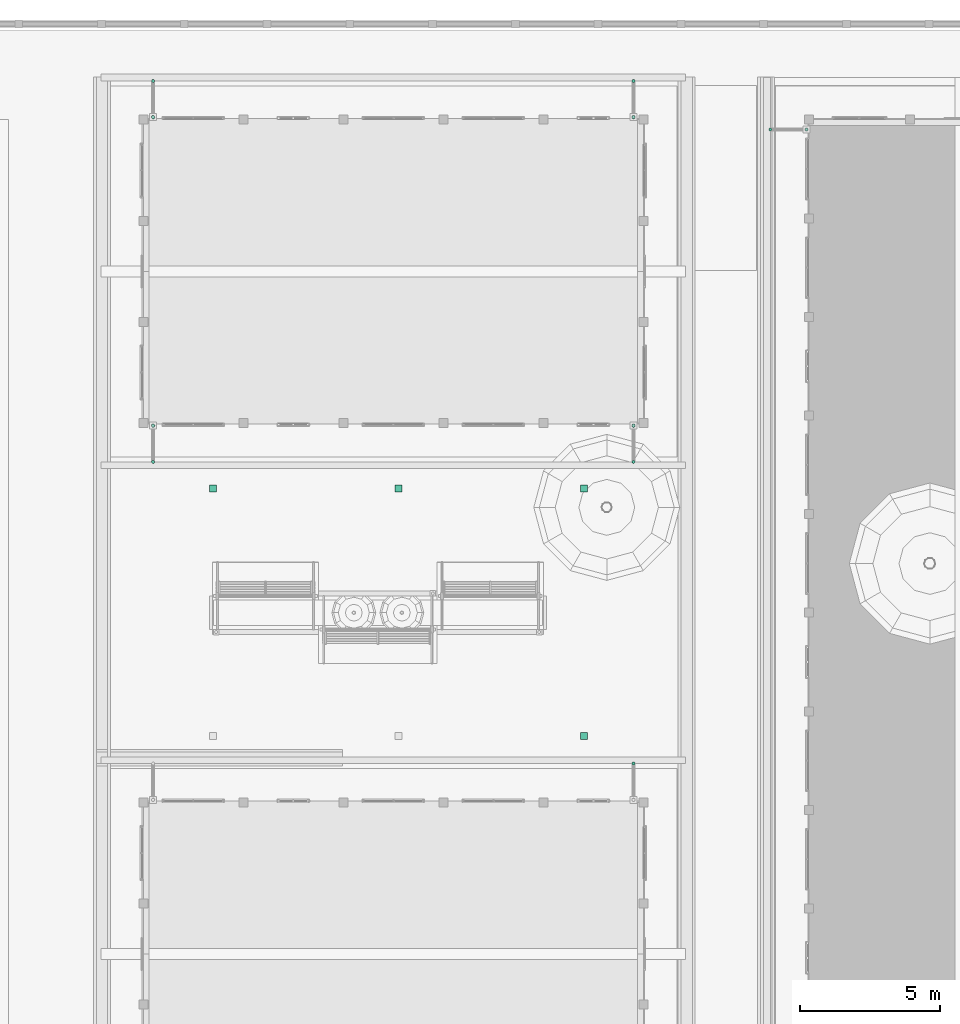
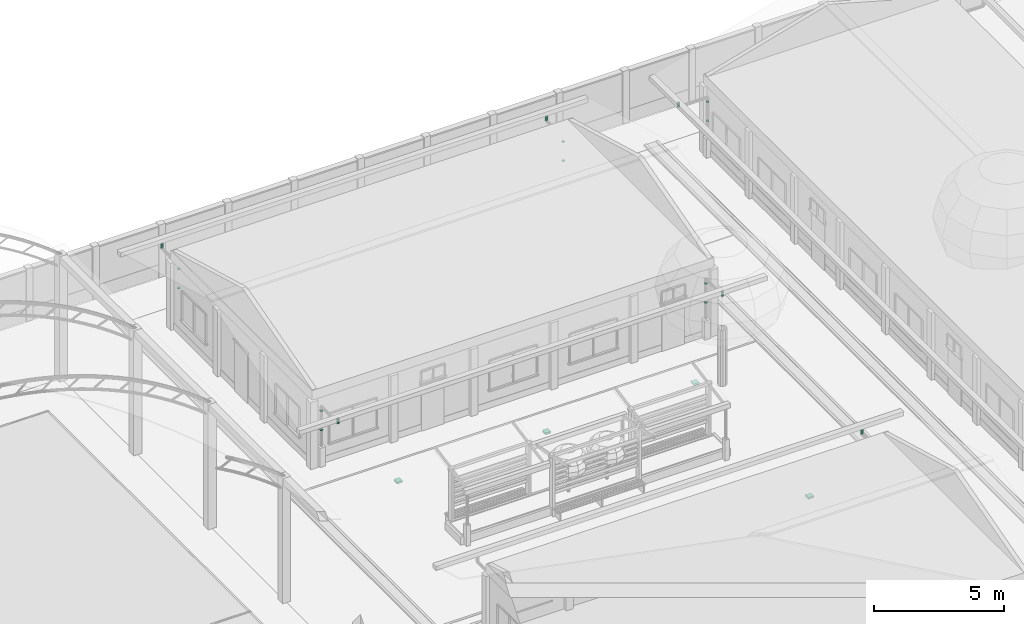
# One storey, part 128 of 177: 16 pipe segments, 4 waste terminals.
"""IFC4 building model written with IfcOpenShell, lengths in metres."""

from ifc_helpers import new_model, si_unit, origin, origin_with_axes, place, context, subcontext, project, spatial, triangles, element, save


model = new_model("IFC4")

# Units and contexts
model_context = context("Model", 3, precision=1e-05, world=origin_with_axes())
body_context = subcontext(model_context, "Body", "Model", "MODEL_VIEW")
ifc_project = project(units=[si_unit("LENGTHUNIT", "METRE"), si_unit("AREAUNIT", "SQUARE_METRE"), si_unit("VOLUMEUNIT", "CUBIC_METRE"), si_unit("PLANEANGLEUNIT", "RADIAN")], contexts=[model_context])

# Site, building, storey
site_placement = place(None, origin_with_axes())
site = spatial("IfcSite", under=ifc_project, at=site_placement, Name="Predio Los Mangos - Morales, San Martín", CompositionType="ELEMENT")
building_placement = place(site_placement, origin())
building = spatial("IfcBuilding", under=site, at=building_placement, Name="Hogar de Refugio Temporal", CompositionType="ELEMENT")
storey_placement = place(building_placement, origin())
storey = spatial("IfcBuildingStorey", under=building, at=storey_placement, Name="NIVEL 1 (NPT +0.00)", CompositionType="ELEMENT", Elevation=0.0)

# Pipe segments
pipe_segment_1_placement = place(storey_placement, origin())
element("IfcPipeSegment", 1, at=pipe_segment_1_placement, inside=storey, Name="montante_boquilla", ObjectType="Montante PVC 4\"", PredefinedType="RIGIDSEGMENT", context=body_context, shape_type="Tessellation", body=[
    triangles([(49.45, 104.935, 3.13), (49.45, 104.935, 2.91), (49.4225, 104.9276, 3.13), (49.4225, 104.9276, 2.91), (49.4024, 104.9075, 3.13), (49.4024, 104.9075, 2.91), (49.395, 104.88, 3.13), (49.395, 104.88, 2.91), (49.4024, 104.8525, 3.13), (49.4024, 104.8525, 2.91), (49.4225, 104.8324, 3.13), (49.4225, 104.8324, 2.91), (49.45, 104.825, 3.13), (49.45, 104.825, 2.91), (49.4775, 104.8324, 3.13), (49.4775, 104.8324, 2.91), (49.4976, 104.8525, 3.13), (49.4976, 104.8525, 2.91), (49.505, 104.88, 3.13), (49.505, 104.88, 2.91), (49.4976, 104.9075, 3.13), (49.4976, 104.9075, 2.91), (49.4775, 104.9276, 3.13), (49.4775, 104.9276, 2.91)], [[1, 2, 4], [1, 4, 3], [3, 4, 6], [3, 6, 5], [5, 6, 8], [5, 8, 7], [7, 8, 10], [7, 10, 9], [9, 10, 12], [9, 12, 11], [11, 12, 14], [11, 14, 13], [13, 14, 16], [13, 16, 15], [15, 16, 18], [15, 18, 17], [17, 18, 20], [17, 20, 19], [19, 20, 22], [19, 22, 21], [6, 4, 2], [2, 24, 22], [22, 20, 18], [18, 16, 14], [14, 12, 10], [10, 8, 6], [6, 2, 22], [22, 18, 14], [14, 10, 6], [22, 14, 6], [21, 22, 24], [21, 24, 23], [23, 24, 2], [23, 2, 1], [23, 1, 3], [3, 5, 7], [7, 9, 11], [11, 13, 15], [15, 17, 19], [19, 21, 23], [23, 3, 7], [7, 11, 15], [15, 19, 23], [7, 15, 23]]),
])
pipe_segment_2_placement = place(storey_placement, origin())
element("IfcPipeSegment", 2, at=pipe_segment_2_placement, inside=storey, Name="montante_boquilla", ObjectType="Montante PVC 4\"", PredefinedType="RIGIDSEGMENT", context=body_context, shape_type="Tessellation", body=[
    triangles([(32.35, 115.675, 3.13), (32.35, 115.675, 2.91), (32.3225, 115.6676, 3.13), (32.3225, 115.6676, 2.91), (32.3024, 115.6475, 3.13), (32.3024, 115.6475, 2.91), (32.295, 115.62, 3.13), (32.295, 115.62, 2.91), (32.3024, 115.5925, 3.13), (32.3024, 115.5925, 2.91), (32.3225, 115.5724, 3.13), (32.3225, 115.5724, 2.91), (32.35, 115.565, 3.13), (32.35, 115.565, 2.91), (32.3775, 115.5724, 3.13), (32.3775, 115.5724, 2.91), (32.3976, 115.5925, 3.13), (32.3976, 115.5925, 2.91), (32.405, 115.62, 3.13), (32.405, 115.62, 2.91), (32.3976, 115.6475, 3.13), (32.3976, 115.6475, 2.91), (32.3775, 115.6676, 3.13), (32.3775, 115.6676, 2.91)], [[1, 2, 4], [1, 4, 3], [3, 4, 6], [3, 6, 5], [5, 6, 8], [5, 8, 7], [7, 8, 10], [7, 10, 9], [9, 10, 12], [9, 12, 11], [11, 12, 14], [11, 14, 13], [13, 14, 16], [13, 16, 15], [15, 16, 18], [15, 18, 17], [17, 18, 20], [17, 20, 19], [19, 20, 22], [19, 22, 21], [6, 4, 2], [2, 24, 22], [22, 20, 18], [18, 16, 14], [14, 12, 10], [10, 8, 6], [6, 2, 22], [22, 18, 14], [14, 10, 6], [22, 14, 6], [21, 22, 24], [21, 24, 23], [23, 24, 2], [23, 2, 1], [23, 1, 3], [3, 5, 7], [7, 9, 11], [11, 13, 15], [15, 17, 19], [19, 21, 23], [23, 3, 7], [7, 11, 15], [15, 19, 23], [7, 15, 23]]),
])
pipe_segment_3_placement = place(storey_placement, origin())
element("IfcPipeSegment", 3, at=pipe_segment_3_placement, inside=storey, Name="montante_abrazadera", ObjectType="Montante PVC 4\"", PredefinedType="RIGIDSEGMENT", context=body_context, shape_type="Tessellation", body=[
    triangles([(32.35, 116.848, 1.8), (32.35, 116.848, 1.84), (32.319, 116.8563, 1.8), (32.319, 116.8563, 1.84), (32.2963, 116.879, 1.8), (32.2963, 116.879, 1.84), (32.288, 116.91, 1.8), (32.288, 116.91, 1.84), (32.2963, 116.941, 1.8), (32.2963, 116.941, 1.84), (32.319, 116.9637, 1.8), (32.319, 116.9637, 1.84), (32.35, 116.972, 1.8), (32.35, 116.972, 1.84), (32.381, 116.9637, 1.8), (32.381, 116.9637, 1.84), (32.4037, 116.941, 1.8), (32.4037, 116.941, 1.84), (32.412, 116.91, 1.8), (32.412, 116.91, 1.84), (32.4037, 116.879, 1.8), (32.4037, 116.879, 1.84), (32.381, 116.8563, 1.8), (32.381, 116.8563, 1.84)], [[1, 2, 4], [1, 4, 3], [3, 4, 6], [3, 6, 5], [5, 6, 8], [5, 8, 7], [7, 8, 10], [7, 10, 9], [9, 10, 12], [9, 12, 11], [11, 12, 14], [11, 14, 13], [13, 14, 16], [13, 16, 15], [15, 16, 18], [15, 18, 17], [17, 18, 20], [17, 20, 19], [19, 20, 22], [19, 22, 21], [6, 4, 2], [2, 24, 22], [22, 20, 18], [18, 16, 14], [14, 12, 10], [10, 8, 6], [6, 2, 22], [22, 18, 14], [14, 10, 6], [22, 14, 6], [21, 22, 24], [21, 24, 23], [23, 24, 2], [23, 2, 1], [23, 1, 3], [3, 5, 7], [7, 9, 11], [11, 13, 15], [15, 17, 19], [19, 21, 23], [23, 3, 7], [7, 11, 15], [15, 19, 23], [7, 15, 23]]),
])
pipe_segment_4_placement = place(storey_placement, origin())
element("IfcPipeSegment", 4, at=pipe_segment_4_placement, inside=storey, Name="montante_abrazadera", ObjectType="Montante PVC 4\"", PredefinedType="RIGIDSEGMENT", context=body_context, shape_type="Tessellation", body=[
    triangles([(32.35, 116.848, 2.7), (32.35, 116.848, 2.74), (32.319, 116.8563, 2.7), (32.319, 116.8563, 2.74), (32.2963, 116.879, 2.7), (32.2963, 116.879, 2.74), (32.288, 116.91, 2.7), (32.288, 116.91, 2.74), (32.2963, 116.941, 2.7), (32.2963, 116.941, 2.74), (32.319, 116.9637, 2.7), (32.319, 116.9637, 2.74), (32.35, 116.972, 2.7), (32.35, 116.972, 2.74), (32.381, 116.9637, 2.7), (32.381, 116.9637, 2.74), (32.4037, 116.941, 2.7), (32.4037, 116.941, 2.74), (32.412, 116.91, 2.7), (32.412, 116.91, 2.74), (32.4037, 116.879, 2.7), (32.4037, 116.879, 2.74), (32.381, 116.8563, 2.7), (32.381, 116.8563, 2.74)], [[1, 2, 4], [1, 4, 3], [3, 4, 6], [3, 6, 5], [5, 6, 8], [5, 8, 7], [7, 8, 10], [7, 10, 9], [9, 10, 12], [9, 12, 11], [11, 12, 14], [11, 14, 13], [13, 14, 16], [13, 16, 15], [15, 16, 18], [15, 18, 17], [17, 18, 20], [17, 20, 19], [19, 20, 22], [19, 22, 21], [6, 4, 2], [2, 24, 22], [22, 20, 18], [18, 16, 14], [14, 12, 10], [10, 8, 6], [6, 2, 22], [22, 18, 14], [14, 10, 6], [22, 14, 6], [21, 22, 24], [21, 24, 23], [23, 24, 2], [23, 2, 1], [23, 1, 3], [3, 5, 7], [7, 9, 11], [11, 13, 15], [15, 17, 19], [19, 21, 23], [23, 3, 7], [7, 11, 15], [15, 19, 23], [7, 15, 23]]),
])
pipe_segment_5_placement = place(storey_placement, origin())
element("IfcPipeSegment", 5, at=pipe_segment_5_placement, inside=storey, Name="montante_boquilla", ObjectType="Montante PVC 4\"", PredefinedType="RIGIDSEGMENT", context=body_context, shape_type="Tessellation", body=[
    triangles([(49.45, 115.675, 3.13), (49.45, 115.675, 2.91), (49.4225, 115.6676, 3.13), (49.4225, 115.6676, 2.91), (49.4024, 115.6475, 3.13), (49.4024, 115.6475, 2.91), (49.395, 115.62, 3.13), (49.395, 115.62, 2.91), (49.4024, 115.5925, 3.13), (49.4024, 115.5925, 2.91), (49.4225, 115.5724, 3.13), (49.4225, 115.5724, 2.91), (49.45, 115.565, 3.13), (49.45, 115.565, 2.91), (49.4775, 115.5724, 3.13), (49.4775, 115.5724, 2.91), (49.4976, 115.5925, 3.13), (49.4976, 115.5925, 2.91), (49.505, 115.62, 3.13), (49.505, 115.62, 2.91), (49.4976, 115.6475, 3.13), (49.4976, 115.6475, 2.91), (49.4775, 115.6676, 3.13), (49.4775, 115.6676, 2.91)], [[1, 2, 4], [1, 4, 3], [3, 4, 6], [3, 6, 5], [5, 6, 8], [5, 8, 7], [7, 8, 10], [7, 10, 9], [9, 10, 12], [9, 12, 11], [11, 12, 14], [11, 14, 13], [13, 14, 16], [13, 16, 15], [15, 16, 18], [15, 18, 17], [17, 18, 20], [17, 20, 19], [19, 20, 22], [19, 22, 21], [6, 4, 2], [2, 24, 22], [22, 20, 18], [18, 16, 14], [14, 12, 10], [10, 8, 6], [6, 2, 22], [22, 18, 14], [14, 10, 6], [22, 14, 6], [21, 22, 24], [21, 24, 23], [23, 24, 2], [23, 2, 1], [23, 1, 3], [3, 5, 7], [7, 9, 11], [11, 13, 15], [15, 17, 19], [19, 21, 23], [23, 3, 7], [7, 11, 15], [15, 19, 23], [7, 15, 23]]),
])
pipe_segment_6_placement = place(storey_placement, origin())
element("IfcPipeSegment", 6, at=pipe_segment_6_placement, inside=storey, Name="montante_abrazadera", ObjectType="Montante PVC 4\"", PredefinedType="RIGIDSEGMENT", context=body_context, shape_type="Tessellation", body=[
    triangles([(49.45, 116.848, 1.8), (49.45, 116.848, 1.84), (49.419, 116.8563, 1.8), (49.419, 116.8563, 1.84), (49.3963, 116.879, 1.8), (49.3963, 116.879, 1.84), (49.388, 116.91, 1.8), (49.388, 116.91, 1.84), (49.3963, 116.941, 1.8), (49.3963, 116.941, 1.84), (49.419, 116.9637, 1.8), (49.419, 116.9637, 1.84), (49.45, 116.972, 1.8), (49.45, 116.972, 1.84), (49.481, 116.9637, 1.8), (49.481, 116.9637, 1.84), (49.5037, 116.941, 1.8), (49.5037, 116.941, 1.84), (49.512, 116.91, 1.8), (49.512, 116.91, 1.84), (49.5037, 116.879, 1.8), (49.5037, 116.879, 1.84), (49.481, 116.8563, 1.8), (49.481, 116.8563, 1.84)], [[1, 2, 4], [1, 4, 3], [3, 4, 6], [3, 6, 5], [5, 6, 8], [5, 8, 7], [7, 8, 10], [7, 10, 9], [9, 10, 12], [9, 12, 11], [11, 12, 14], [11, 14, 13], [13, 14, 16], [13, 16, 15], [15, 16, 18], [15, 18, 17], [17, 18, 20], [17, 20, 19], [19, 20, 22], [19, 22, 21], [6, 4, 2], [2, 24, 22], [22, 20, 18], [18, 16, 14], [14, 12, 10], [10, 8, 6], [6, 2, 22], [22, 18, 14], [14, 10, 6], [22, 14, 6], [21, 22, 24], [21, 24, 23], [23, 24, 2], [23, 2, 1], [23, 1, 3], [3, 5, 7], [7, 9, 11], [11, 13, 15], [15, 17, 19], [19, 21, 23], [23, 3, 7], [7, 11, 15], [15, 19, 23], [7, 15, 23]]),
])
pipe_segment_7_placement = place(storey_placement, origin())
element("IfcPipeSegment", 7, at=pipe_segment_7_placement, inside=storey, Name="montante_abrazadera", ObjectType="Montante PVC 4\"", PredefinedType="RIGIDSEGMENT", context=body_context, shape_type="Tessellation", body=[
    triangles([(49.45, 116.848, 2.7), (49.45, 116.848, 2.74), (49.419, 116.8563, 2.7), (49.419, 116.8563, 2.74), (49.3963, 116.879, 2.7), (49.3963, 116.879, 2.74), (49.388, 116.91, 2.7), (49.388, 116.91, 2.74), (49.3963, 116.941, 2.7), (49.3963, 116.941, 2.74), (49.419, 116.9637, 2.7), (49.419, 116.9637, 2.74), (49.45, 116.972, 2.7), (49.45, 116.972, 2.74), (49.481, 116.9637, 2.7), (49.481, 116.9637, 2.74), (49.5037, 116.941, 2.7), (49.5037, 116.941, 2.74), (49.512, 116.91, 2.7), (49.512, 116.91, 2.74), (49.5037, 116.879, 2.7), (49.5037, 116.879, 2.74), (49.481, 116.8563, 2.7), (49.481, 116.8563, 2.74)], [[1, 2, 4], [1, 4, 3], [3, 4, 6], [3, 6, 5], [5, 6, 8], [5, 8, 7], [7, 8, 10], [7, 10, 9], [9, 10, 12], [9, 12, 11], [11, 12, 14], [11, 14, 13], [13, 14, 16], [13, 16, 15], [15, 16, 18], [15, 18, 17], [17, 18, 20], [17, 20, 19], [19, 20, 22], [19, 22, 21], [6, 4, 2], [2, 24, 22], [22, 20, 18], [18, 16, 14], [14, 12, 10], [10, 8, 6], [6, 2, 22], [22, 18, 14], [14, 10, 6], [22, 14, 6], [21, 22, 24], [21, 24, 23], [23, 24, 2], [23, 2, 1], [23, 1, 3], [3, 5, 7], [7, 9, 11], [11, 13, 15], [15, 17, 19], [19, 21, 23], [23, 3, 7], [7, 11, 15], [15, 19, 23], [7, 15, 23]]),
])
pipe_segment_8_placement = place(storey_placement, origin())
element("IfcPipeSegment", 8, at=pipe_segment_8_placement, inside=storey, Name="montante_boquilla", ObjectType="Montante PVC 4\"", PredefinedType="RIGIDSEGMENT", context=body_context, shape_type="Tessellation", body=[
    triangles([(32.35, 129.235, 3.13), (32.35, 129.235, 2.91), (32.3225, 129.2276, 3.13), (32.3225, 129.2276, 2.91), (32.3024, 129.2075, 3.13), (32.3024, 129.2075, 2.91), (32.295, 129.18, 3.13), (32.295, 129.18, 2.91), (32.3024, 129.1525, 3.13), (32.3024, 129.1525, 2.91), (32.3225, 129.1324, 3.13), (32.3225, 129.1324, 2.91), (32.35, 129.125, 3.13), (32.35, 129.125, 2.91), (32.3775, 129.1324, 3.13), (32.3775, 129.1324, 2.91), (32.3976, 129.1525, 3.13), (32.3976, 129.1525, 2.91), (32.405, 129.18, 3.13), (32.405, 129.18, 2.91), (32.3976, 129.2075, 3.13), (32.3976, 129.2075, 2.91), (32.3775, 129.2276, 3.13), (32.3775, 129.2276, 2.91)], [[1, 2, 4], [1, 4, 3], [3, 4, 6], [3, 6, 5], [5, 6, 8], [5, 8, 7], [7, 8, 10], [7, 10, 9], [9, 10, 12], [9, 12, 11], [11, 12, 14], [11, 14, 13], [13, 14, 16], [13, 16, 15], [15, 16, 18], [15, 18, 17], [17, 18, 20], [17, 20, 19], [19, 20, 22], [19, 22, 21], [6, 4, 2], [2, 24, 22], [22, 20, 18], [18, 16, 14], [14, 12, 10], [10, 8, 6], [6, 2, 22], [22, 18, 14], [14, 10, 6], [22, 14, 6], [21, 22, 24], [21, 24, 23], [23, 24, 2], [23, 2, 1], [23, 1, 3], [3, 5, 7], [7, 9, 11], [11, 13, 15], [15, 17, 19], [19, 21, 23], [23, 3, 7], [7, 11, 15], [15, 19, 23], [7, 15, 23]]),
])
pipe_segment_9_placement = place(storey_placement, origin())
element("IfcPipeSegment", 9, at=pipe_segment_9_placement, inside=storey, Name="montante_abrazadera", ObjectType="Montante PVC 4\"", PredefinedType="RIGIDSEGMENT", context=body_context, shape_type="Tessellation", body=[
    triangles([(32.35, 127.828, 1.8), (32.35, 127.828, 1.84), (32.319, 127.8363, 1.8), (32.319, 127.8363, 1.84), (32.2963, 127.859, 1.8), (32.2963, 127.859, 1.84), (32.288, 127.89, 1.8), (32.288, 127.89, 1.84), (32.2963, 127.921, 1.8), (32.2963, 127.921, 1.84), (32.319, 127.9437, 1.8), (32.319, 127.9437, 1.84), (32.35, 127.952, 1.8), (32.35, 127.952, 1.84), (32.381, 127.9437, 1.8), (32.381, 127.9437, 1.84), (32.4037, 127.921, 1.8), (32.4037, 127.921, 1.84), (32.412, 127.89, 1.8), (32.412, 127.89, 1.84), (32.4037, 127.859, 1.8), (32.4037, 127.859, 1.84), (32.381, 127.8363, 1.8), (32.381, 127.8363, 1.84)], [[1, 2, 4], [1, 4, 3], [3, 4, 6], [3, 6, 5], [5, 6, 8], [5, 8, 7], [7, 8, 10], [7, 10, 9], [9, 10, 12], [9, 12, 11], [11, 12, 14], [11, 14, 13], [13, 14, 16], [13, 16, 15], [15, 16, 18], [15, 18, 17], [17, 18, 20], [17, 20, 19], [19, 20, 22], [19, 22, 21], [6, 4, 2], [2, 24, 22], [22, 20, 18], [18, 16, 14], [14, 12, 10], [10, 8, 6], [6, 2, 22], [22, 18, 14], [14, 10, 6], [22, 14, 6], [21, 22, 24], [21, 24, 23], [23, 24, 2], [23, 2, 1], [23, 1, 3], [3, 5, 7], [7, 9, 11], [11, 13, 15], [15, 17, 19], [19, 21, 23], [23, 3, 7], [7, 11, 15], [15, 19, 23], [7, 15, 23]]),
])
pipe_segment_10_placement = place(storey_placement, origin())
element("IfcPipeSegment", 10, at=pipe_segment_10_placement, inside=storey, Name="montante_abrazadera", ObjectType="Montante PVC 4\"", PredefinedType="RIGIDSEGMENT", context=body_context, shape_type="Tessellation", body=[
    triangles([(32.35, 127.828, 2.7), (32.35, 127.828, 2.74), (32.319, 127.8363, 2.7), (32.319, 127.8363, 2.74), (32.2963, 127.859, 2.7), (32.2963, 127.859, 2.74), (32.288, 127.89, 2.7), (32.288, 127.89, 2.74), (32.2963, 127.921, 2.7), (32.2963, 127.921, 2.74), (32.319, 127.9437, 2.7), (32.319, 127.9437, 2.74), (32.35, 127.952, 2.7), (32.35, 127.952, 2.74), (32.381, 127.9437, 2.7), (32.381, 127.9437, 2.74), (32.4037, 127.921, 2.7), (32.4037, 127.921, 2.74), (32.412, 127.89, 2.7), (32.412, 127.89, 2.74), (32.4037, 127.859, 2.7), (32.4037, 127.859, 2.74), (32.381, 127.8363, 2.7), (32.381, 127.8363, 2.74)], [[1, 2, 4], [1, 4, 3], [3, 4, 6], [3, 6, 5], [5, 6, 8], [5, 8, 7], [7, 8, 10], [7, 10, 9], [9, 10, 12], [9, 12, 11], [11, 12, 14], [11, 14, 13], [13, 14, 16], [13, 16, 15], [15, 16, 18], [15, 18, 17], [17, 18, 20], [17, 20, 19], [19, 20, 22], [19, 22, 21], [6, 4, 2], [2, 24, 22], [22, 20, 18], [18, 16, 14], [14, 12, 10], [10, 8, 6], [6, 2, 22], [22, 18, 14], [14, 10, 6], [22, 14, 6], [21, 22, 24], [21, 24, 23], [23, 24, 2], [23, 2, 1], [23, 1, 3], [3, 5, 7], [7, 9, 11], [11, 13, 15], [15, 17, 19], [19, 21, 23], [23, 3, 7], [7, 11, 15], [15, 19, 23], [7, 15, 23]]),
])
pipe_segment_11_placement = place(storey_placement, origin())
element("IfcPipeSegment", 11, at=pipe_segment_11_placement, inside=storey, Name="montante_boquilla", ObjectType="Montante PVC 4\"", PredefinedType="RIGIDSEGMENT", context=body_context, shape_type="Tessellation", body=[
    triangles([(49.45, 129.235, 3.13), (49.45, 129.235, 2.91), (49.4225, 129.2276, 3.13), (49.4225, 129.2276, 2.91), (49.4024, 129.2075, 3.13), (49.4024, 129.2075, 2.91), (49.395, 129.18, 3.13), (49.395, 129.18, 2.91), (49.4024, 129.1525, 3.13), (49.4024, 129.1525, 2.91), (49.4225, 129.1324, 3.13), (49.4225, 129.1324, 2.91), (49.45, 129.125, 3.13), (49.45, 129.125, 2.91), (49.4775, 129.1324, 3.13), (49.4775, 129.1324, 2.91), (49.4976, 129.1525, 3.13), (49.4976, 129.1525, 2.91), (49.505, 129.18, 3.13), (49.505, 129.18, 2.91), (49.4976, 129.2075, 3.13), (49.4976, 129.2075, 2.91), (49.4775, 129.2276, 3.13), (49.4775, 129.2276, 2.91)], [[1, 2, 4], [1, 4, 3], [3, 4, 6], [3, 6, 5], [5, 6, 8], [5, 8, 7], [7, 8, 10], [7, 10, 9], [9, 10, 12], [9, 12, 11], [11, 12, 14], [11, 14, 13], [13, 14, 16], [13, 16, 15], [15, 16, 18], [15, 18, 17], [17, 18, 20], [17, 20, 19], [19, 20, 22], [19, 22, 21], [6, 4, 2], [2, 24, 22], [22, 20, 18], [18, 16, 14], [14, 12, 10], [10, 8, 6], [6, 2, 22], [22, 18, 14], [14, 10, 6], [22, 14, 6], [21, 22, 24], [21, 24, 23], [23, 24, 2], [23, 2, 1], [23, 1, 3], [3, 5, 7], [7, 9, 11], [11, 13, 15], [15, 17, 19], [19, 21, 23], [23, 3, 7], [7, 11, 15], [15, 19, 23], [7, 15, 23]]),
])
pipe_segment_12_placement = place(storey_placement, origin())
element("IfcPipeSegment", 12, at=pipe_segment_12_placement, inside=storey, Name="montante_abrazadera", ObjectType="Montante PVC 4\"", PredefinedType="RIGIDSEGMENT", context=body_context, shape_type="Tessellation", body=[
    triangles([(49.45, 127.828, 1.8), (49.45, 127.828, 1.84), (49.419, 127.8363, 1.8), (49.419, 127.8363, 1.84), (49.3963, 127.859, 1.8), (49.3963, 127.859, 1.84), (49.388, 127.89, 1.8), (49.388, 127.89, 1.84), (49.3963, 127.921, 1.8), (49.3963, 127.921, 1.84), (49.419, 127.9437, 1.8), (49.419, 127.9437, 1.84), (49.45, 127.952, 1.8), (49.45, 127.952, 1.84), (49.481, 127.9437, 1.8), (49.481, 127.9437, 1.84), (49.5037, 127.921, 1.8), (49.5037, 127.921, 1.84), (49.512, 127.89, 1.8), (49.512, 127.89, 1.84), (49.5037, 127.859, 1.8), (49.5037, 127.859, 1.84), (49.481, 127.8363, 1.8), (49.481, 127.8363, 1.84)], [[1, 2, 4], [1, 4, 3], [3, 4, 6], [3, 6, 5], [5, 6, 8], [5, 8, 7], [7, 8, 10], [7, 10, 9], [9, 10, 12], [9, 12, 11], [11, 12, 14], [11, 14, 13], [13, 14, 16], [13, 16, 15], [15, 16, 18], [15, 18, 17], [17, 18, 20], [17, 20, 19], [19, 20, 22], [19, 22, 21], [6, 4, 2], [2, 24, 22], [22, 20, 18], [18, 16, 14], [14, 12, 10], [10, 8, 6], [6, 2, 22], [22, 18, 14], [14, 10, 6], [22, 14, 6], [21, 22, 24], [21, 24, 23], [23, 24, 2], [23, 2, 1], [23, 1, 3], [3, 5, 7], [7, 9, 11], [11, 13, 15], [15, 17, 19], [19, 21, 23], [23, 3, 7], [7, 11, 15], [15, 19, 23], [7, 15, 23]]),
])
pipe_segment_13_placement = place(storey_placement, origin())
element("IfcPipeSegment", 13, at=pipe_segment_13_placement, inside=storey, Name="montante_abrazadera", ObjectType="Montante PVC 4\"", PredefinedType="RIGIDSEGMENT", context=body_context, shape_type="Tessellation", body=[
    triangles([(49.45, 127.828, 2.7), (49.45, 127.828, 2.74), (49.419, 127.8363, 2.7), (49.419, 127.8363, 2.74), (49.3963, 127.859, 2.7), (49.3963, 127.859, 2.74), (49.388, 127.89, 2.7), (49.388, 127.89, 2.74), (49.3963, 127.921, 2.7), (49.3963, 127.921, 2.74), (49.419, 127.9437, 2.7), (49.419, 127.9437, 2.74), (49.45, 127.952, 2.7), (49.45, 127.952, 2.74), (49.481, 127.9437, 2.7), (49.481, 127.9437, 2.74), (49.5037, 127.921, 2.7), (49.5037, 127.921, 2.74), (49.512, 127.89, 2.7), (49.512, 127.89, 2.74), (49.5037, 127.859, 2.7), (49.5037, 127.859, 2.74), (49.481, 127.8363, 2.7), (49.481, 127.8363, 2.74)], [[1, 2, 4], [1, 4, 3], [3, 4, 6], [3, 6, 5], [5, 6, 8], [5, 8, 7], [7, 8, 10], [7, 10, 9], [9, 10, 12], [9, 12, 11], [11, 12, 14], [11, 14, 13], [13, 14, 16], [13, 16, 15], [15, 16, 18], [15, 18, 17], [17, 18, 20], [17, 20, 19], [19, 20, 22], [19, 22, 21], [6, 4, 2], [2, 24, 22], [22, 20, 18], [18, 16, 14], [14, 12, 10], [10, 8, 6], [6, 2, 22], [22, 18, 14], [14, 10, 6], [22, 14, 6], [21, 22, 24], [21, 24, 23], [23, 24, 2], [23, 2, 1], [23, 1, 3], [3, 5, 7], [7, 9, 11], [11, 13, 15], [15, 17, 19], [19, 21, 23], [23, 3, 7], [7, 11, 15], [15, 19, 23], [7, 15, 23]]),
])
pipe_segment_14_placement = place(storey_placement, origin())
element("IfcPipeSegment", 14, at=pipe_segment_14_placement, inside=storey, Name="montante_boquilla", ObjectType="Montante PVC 4\"", PredefinedType="RIGIDSEGMENT", context=body_context, shape_type="Tessellation", body=[
    triangles([(54.32, 127.505, 3.13), (54.32, 127.505, 2.91), (54.2925, 127.4976, 3.13), (54.2925, 127.4976, 2.91), (54.2724, 127.4775, 3.13), (54.2724, 127.4775, 2.91), (54.265, 127.45, 3.13), (54.265, 127.45, 2.91), (54.2724, 127.4225, 3.13), (54.2724, 127.4225, 2.91), (54.2925, 127.4024, 3.13), (54.2925, 127.4024, 2.91), (54.32, 127.395, 3.13), (54.32, 127.395, 2.91), (54.3475, 127.4024, 3.13), (54.3475, 127.4024, 2.91), (54.3676, 127.4225, 3.13), (54.3676, 127.4225, 2.91), (54.375, 127.45, 3.13), (54.375, 127.45, 2.91), (54.3676, 127.4775, 3.13), (54.3676, 127.4775, 2.91), (54.3475, 127.4976, 3.13), (54.3475, 127.4976, 2.91)], [[1, 2, 4], [1, 4, 3], [3, 4, 6], [3, 6, 5], [5, 6, 8], [5, 8, 7], [7, 8, 10], [7, 10, 9], [9, 10, 12], [9, 12, 11], [11, 12, 14], [11, 14, 13], [13, 14, 16], [13, 16, 15], [15, 16, 18], [15, 18, 17], [17, 18, 20], [17, 20, 19], [19, 20, 22], [19, 22, 21], [6, 4, 2], [2, 24, 22], [22, 20, 18], [18, 16, 14], [14, 12, 10], [10, 8, 6], [6, 2, 22], [22, 18, 14], [14, 10, 6], [22, 14, 6], [21, 22, 24], [21, 24, 23], [23, 24, 2], [23, 2, 1], [23, 1, 3], [3, 5, 7], [7, 9, 11], [11, 13, 15], [15, 17, 19], [19, 21, 23], [23, 3, 7], [7, 11, 15], [15, 19, 23], [7, 15, 23]]),
])
pipe_segment_15_placement = place(storey_placement, origin())
element("IfcPipeSegment", 15, at=pipe_segment_15_placement, inside=storey, Name="montante_abrazadera", ObjectType="Montante PVC 4\"", PredefinedType="RIGIDSEGMENT", context=body_context, shape_type="Tessellation", body=[
    triangles([(55.61, 127.388, 1.8), (55.61, 127.388, 1.84), (55.579, 127.3963, 1.8), (55.579, 127.3963, 1.84), (55.5563, 127.419, 1.8), (55.5563, 127.419, 1.84), (55.548, 127.45, 1.8), (55.548, 127.45, 1.84), (55.5563, 127.481, 1.8), (55.5563, 127.481, 1.84), (55.579, 127.5037, 1.8), (55.579, 127.5037, 1.84), (55.61, 127.512, 1.8), (55.61, 127.512, 1.84), (55.641, 127.5037, 1.8), (55.641, 127.5037, 1.84), (55.6637, 127.481, 1.8), (55.6637, 127.481, 1.84), (55.672, 127.45, 1.8), (55.672, 127.45, 1.84), (55.6637, 127.419, 1.8), (55.6637, 127.419, 1.84), (55.641, 127.3963, 1.8), (55.641, 127.3963, 1.84)], [[1, 2, 4], [1, 4, 3], [3, 4, 6], [3, 6, 5], [5, 6, 8], [5, 8, 7], [7, 8, 10], [7, 10, 9], [9, 10, 12], [9, 12, 11], [11, 12, 14], [11, 14, 13], [13, 14, 16], [13, 16, 15], [15, 16, 18], [15, 18, 17], [17, 18, 20], [17, 20, 19], [19, 20, 22], [19, 22, 21], [6, 4, 2], [2, 24, 22], [22, 20, 18], [18, 16, 14], [14, 12, 10], [10, 8, 6], [6, 2, 22], [22, 18, 14], [14, 10, 6], [22, 14, 6], [21, 22, 24], [21, 24, 23], [23, 24, 2], [23, 2, 1], [23, 1, 3], [3, 5, 7], [7, 9, 11], [11, 13, 15], [15, 17, 19], [19, 21, 23], [23, 3, 7], [7, 11, 15], [15, 19, 23], [7, 15, 23]]),
])
pipe_segment_16_placement = place(storey_placement, origin())
element("IfcPipeSegment", 16, at=pipe_segment_16_placement, inside=storey, Name="montante_abrazadera", ObjectType="Montante PVC 4\"", PredefinedType="RIGIDSEGMENT", context=body_context, shape_type="Tessellation", body=[
    triangles([(55.61, 127.388, 2.7), (55.61, 127.388, 2.74), (55.579, 127.3963, 2.7), (55.579, 127.3963, 2.74), (55.5563, 127.419, 2.7), (55.5563, 127.419, 2.74), (55.548, 127.45, 2.7), (55.548, 127.45, 2.74), (55.5563, 127.481, 2.7), (55.5563, 127.481, 2.74), (55.579, 127.5037, 2.7), (55.579, 127.5037, 2.74), (55.61, 127.512, 2.7), (55.61, 127.512, 2.74), (55.641, 127.5037, 2.7), (55.641, 127.5037, 2.74), (55.6637, 127.481, 2.7), (55.6637, 127.481, 2.74), (55.672, 127.45, 2.7), (55.672, 127.45, 2.74), (55.6637, 127.419, 2.7), (55.6637, 127.419, 2.74), (55.641, 127.3963, 2.7), (55.641, 127.3963, 2.74)], [[1, 2, 4], [1, 4, 3], [3, 4, 6], [3, 6, 5], [5, 6, 8], [5, 8, 7], [7, 8, 10], [7, 10, 9], [9, 10, 12], [9, 12, 11], [11, 12, 14], [11, 14, 13], [13, 14, 16], [13, 16, 15], [15, 16, 18], [15, 18, 17], [17, 18, 20], [17, 20, 19], [19, 20, 22], [19, 22, 21], [6, 4, 2], [2, 24, 22], [22, 20, 18], [18, 16, 14], [14, 12, 10], [10, 8, 6], [6, 2, 22], [22, 18, 14], [14, 10, 6], [22, 14, 6], [21, 22, 24], [21, 24, 23], [23, 24, 2], [23, 2, 1], [23, 1, 3], [3, 5, 7], [7, 9, 11], [11, 13, 15], [15, 17, 19], [19, 21, 23], [23, 3, 7], [7, 11, 15], [15, 19, 23], [7, 15, 23]]),
])

# Waste terminals
waste_terminal_1_placement = place(storey_placement, origin())
element("IfcWasteTerminal", 17, at=waste_terminal_1_placement, inside=storey, Name="sumidero_fondo", ObjectType="Sumidero con rejilla", PredefinedType="GULLYTRAP", context=body_context, shape_type="Tessellation", body=[
    triangles([(47.56, 105.732, -0.02), (47.81, 105.732, -0.02), (47.81, 105.982, -0.02), (47.56, 105.982, -0.02), (47.56, 105.732, 0.064), (47.81, 105.732, 0.064), (47.81, 105.982, 0.064), (47.56, 105.982, 0.064)], [[1, 4, 3], [1, 3, 2], [5, 6, 7], [5, 7, 8], [1, 2, 6], [1, 6, 5], [2, 3, 7], [2, 7, 6], [3, 4, 8], [3, 8, 7], [4, 1, 5], [4, 5, 8]]),
])
waste_terminal_2_placement = place(storey_placement, origin())
element("IfcWasteTerminal", 18, at=waste_terminal_2_placement, inside=storey, Name="sumidero_fondo", ObjectType="Sumidero con rejilla", PredefinedType="GULLYTRAP", context=body_context, shape_type="Tessellation", body=[
    triangles([(34.36, 114.552, -0.02), (34.61, 114.552, -0.02), (34.61, 114.802, -0.02), (34.36, 114.802, -0.02), (34.36, 114.552, 0.064), (34.61, 114.552, 0.064), (34.61, 114.802, 0.064), (34.36, 114.802, 0.064)], [[1, 4, 3], [1, 3, 2], [5, 6, 7], [5, 7, 8], [1, 2, 6], [1, 6, 5], [2, 3, 7], [2, 7, 6], [3, 4, 8], [3, 8, 7], [4, 1, 5], [4, 5, 8]]),
])
waste_terminal_3_placement = place(storey_placement, origin())
element("IfcWasteTerminal", 19, at=waste_terminal_3_placement, inside=storey, Name="sumidero_fondo", ObjectType="Sumidero con rejilla", PredefinedType="GULLYTRAP", context=body_context, shape_type="Tessellation", body=[
    triangles([(40.96, 114.552, -0.02), (41.21, 114.552, -0.02), (41.21, 114.802, -0.02), (40.96, 114.802, -0.02), (40.96, 114.552, 0.064), (41.21, 114.552, 0.064), (41.21, 114.802, 0.064), (40.96, 114.802, 0.064)], [[1, 4, 3], [1, 3, 2], [5, 6, 7], [5, 7, 8], [1, 2, 6], [1, 6, 5], [2, 3, 7], [2, 7, 6], [3, 4, 8], [3, 8, 7], [4, 1, 5], [4, 5, 8]]),
])
waste_terminal_4_placement = place(storey_placement, origin())
element("IfcWasteTerminal", 20, at=waste_terminal_4_placement, inside=storey, Name="sumidero_fondo", ObjectType="Sumidero con rejilla", PredefinedType="GULLYTRAP", context=body_context, shape_type="Tessellation", body=[
    triangles([(47.56, 114.552, -0.02), (47.81, 114.552, -0.02), (47.81, 114.802, -0.02), (47.56, 114.802, -0.02), (47.56, 114.552, 0.064), (47.81, 114.552, 0.064), (47.81, 114.802, 0.064), (47.56, 114.802, 0.064)], [[1, 4, 3], [1, 3, 2], [5, 6, 7], [5, 7, 8], [1, 2, 6], [1, 6, 5], [2, 3, 7], [2, 7, 6], [3, 4, 8], [3, 8, 7], [4, 1, 5], [4, 5, 8]]),
])

save(model, "model.ifc")
